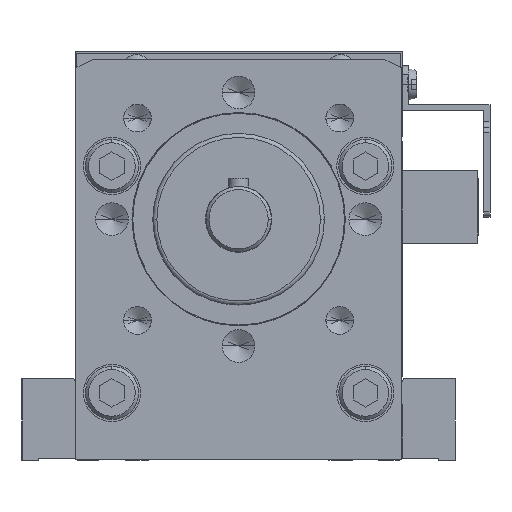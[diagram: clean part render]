
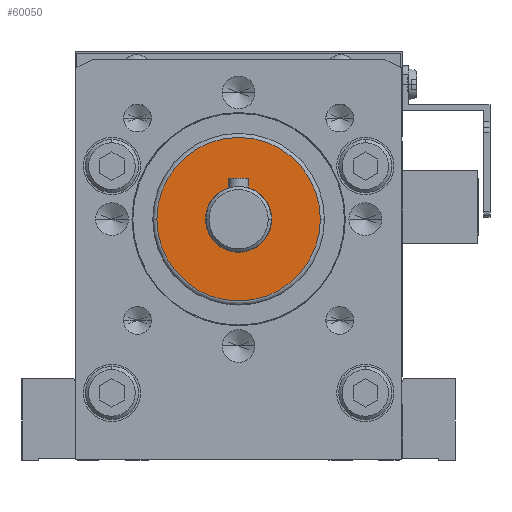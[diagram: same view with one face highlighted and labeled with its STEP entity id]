
A CAD part, front view. The second image highlights one B-rep face of the part: STEP entity #60050.
In plain terms, the highlighted planar face has unit normal (0, -1, 0) as drawn and (0, 0, 1) by its records, which use the part's own axes.
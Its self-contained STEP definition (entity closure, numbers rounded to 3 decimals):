
#59560=CARTESIAN_POINT('',(1630.05,135.16,
390.));
#59570=VERTEX_POINT('',#59560);
#59660=CARTESIAN_POINT('',(1590.05,135.16,
390.));
#59670=VERTEX_POINT('',#59660);
#59700=CARTESIAN_POINT('',(1610.05,135.16,
390.));
#59710=DIRECTION('',(0.,0.,-1.));
#59720=DIRECTION('',(-1.,0.,0.));
#59730=AXIS2_PLACEMENT_3D('',#59700,#59710,#59720);
#59740=CIRCLE('',#59730,20.);
#59750=EDGE_CURVE('',#59570,#59670,#59740,.T.);
#59800=CARTESIAN_POINT('',(1601.384,132.673,
390.));
#59810=DIRECTION('',(0.,0.,-1.));
#59820=DIRECTION('',(-1.,0.,0.));
#59830=AXIS2_PLACEMENT_3D('',#59800,#59810,#59820);
#59840=PLANE('',#59830);
#59850=CARTESIAN_POINT('',(1610.05,135.16,
390.));
#59860=DIRECTION('',(0.,0.,-1.));
#59870=DIRECTION('',(-1.,0.,0.));
#59880=AXIS2_PLACEMENT_3D('',#59850,#59860,#59870);
#59890=CIRCLE('',#59880,8.1);
#59900=CARTESIAN_POINT('',(1601.95,135.16,
390.));
#59910=VERTEX_POINT('',#59900);
#59920=CARTESIAN_POINT('',(1618.15,135.16,
390.));
#59930=VERTEX_POINT('',#59920);
#59940=EDGE_CURVE('',#59910,#59930,#59890,.T.);
#59950=ORIENTED_EDGE('',*,*,#59940,.T.);
#59960=EDGE_CURVE('',#59930,#59910,#59890,.T.);
#59970=ORIENTED_EDGE('',*,*,#59960,.T.);
#59980=EDGE_LOOP('',(#59970,#59950));
#59990=FACE_BOUND('',#59980,.T.);
#60000=EDGE_CURVE('',#59670,#59570,#59740,.T.);
#60010=ORIENTED_EDGE('',*,*,#60000,.F.);
#60020=ORIENTED_EDGE('',*,*,#59750,.F.);
#60030=EDGE_LOOP('',(#60020,#60010));
#60040=FACE_OUTER_BOUND('',#60030,.T.);
#60050=ADVANCED_FACE('',(#59990,#60040),#59840,.F.);
